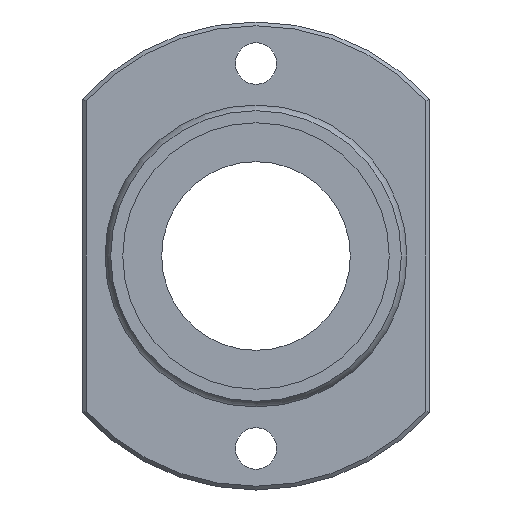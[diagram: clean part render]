
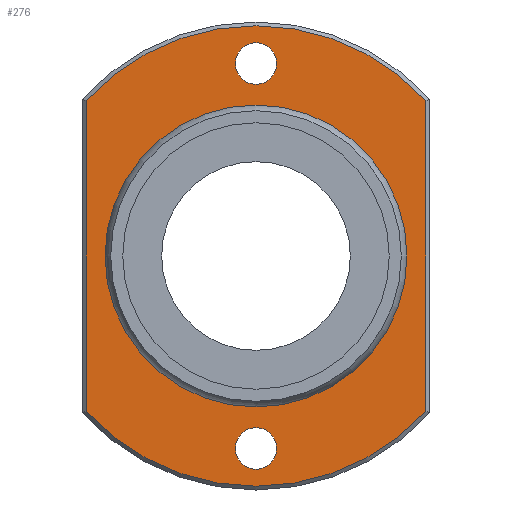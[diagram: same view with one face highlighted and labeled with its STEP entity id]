
A CAD part, left-side view. The second image highlights one B-rep face of the part: STEP entity #276.
In plain terms, the highlighted planar face has unit normal (-1, 0, 0).
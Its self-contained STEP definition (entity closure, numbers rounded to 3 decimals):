
#59=CARTESIAN_POINT('',(8.,22.5,-20.591));
#60=VERTEX_POINT('',#59);
#68=CARTESIAN_POINT('',(8.,22.5,20.591));
#69=VERTEX_POINT('',#68);
#70=CARTESIAN_POINT('',(8.,22.5,-20.591));
#71=DIRECTION('',(0.0,0.0,1.0));
#72=VECTOR('',#71,41.183);
#73=LINE('',#70,#72);
#74=EDGE_CURVE('',#60,#69,#73,.T.);
#101=CARTESIAN_POINT('',(8.,-22.5,20.591));
#102=VERTEX_POINT('',#101);
#103=CARTESIAN_POINT('',(8.,0.0,0.0));
#104=DIRECTION('',(1.0,0.0,0.0));
#105=DIRECTION('',(0.0,0.0,1.0));
#106=AXIS2_PLACEMENT_3D('',#103,#104,#105);
#107=CIRCLE('',#106,30.5);
#108=EDGE_CURVE('',#69,#102,#107,.T.);
#134=CARTESIAN_POINT('',(8.,-22.5,-20.591));
#135=VERTEX_POINT('',#134);
#136=CARTESIAN_POINT('',(8.,-22.5,20.591));
#137=DIRECTION('',(0.0,0.0,-1.0));
#138=VECTOR('',#137,41.183);
#139=LINE('',#136,#138);
#140=EDGE_CURVE('',#102,#135,#139,.T.);
#165=CARTESIAN_POINT('',(8.,0.0,0.0));
#166=DIRECTION('',(1.0,0.0,0.0));
#167=DIRECTION('',(0.0,0.0,-1.0));
#168=AXIS2_PLACEMENT_3D('',#165,#166,#167);
#169=CIRCLE('',#168,30.5);
#170=EDGE_CURVE('',#135,#60,#169,.T.);
#232=CARTESIAN_POINT('',(8.,0.0,25.282));
#233=DIRECTION('',(-1.0,0.0,0.0));
#234=DIRECTION('',(0.0,0.0,1.0));
#235=AXIS2_PLACEMENT_3D('',#232,#233,#234);
#236=PLANE('',#235);
#237=ORIENTED_EDGE('',*,*,#74,.F.);
#238=ORIENTED_EDGE('',*,*,#170,.F.);
#239=ORIENTED_EDGE('',*,*,#140,.F.);
#240=ORIENTED_EDGE('',*,*,#108,.F.);
#241=EDGE_LOOP('',(#237,#238,#239,#240));
#242=FACE_OUTER_BOUND('',#241,.T.);
#243=CARTESIAN_POINT('',(8.,0.0,19.564));
#244=VERTEX_POINT('',#243);
#245=CARTESIAN_POINT('',(8.,0.0,0.0));
#246=DIRECTION('',(-1.0,0.0,0.0));
#247=DIRECTION('',(0.0,0.0,1.0));
#248=AXIS2_PLACEMENT_3D('',#245,#246,#247);
#249=CIRCLE('',#248,19.564);
#250=EDGE_CURVE('',#244,#244,#249,.T.);
#251=ORIENTED_EDGE('',*,*,#250,.F.);
#252=EDGE_LOOP('',(#251));
#253=FACE_BOUND('',#252,.T.);
#254=CARTESIAN_POINT('',(8.,-2.75,-25.5));
#255=VERTEX_POINT('',#254);
#256=CARTESIAN_POINT('',(8.,0.,-25.5));
#257=DIRECTION('',(1.0,0.0,0.0));
#258=DIRECTION('',(0.0,1.0,0.0));
#259=AXIS2_PLACEMENT_3D('',#256,#257,#258);
#260=CIRCLE('',#259,2.75);
#261=EDGE_CURVE('',#255,#255,#260,.T.);
#262=ORIENTED_EDGE('',*,*,#261,.T.);
#263=EDGE_LOOP('',(#262));
#264=FACE_BOUND('',#263,.T.);
#265=CARTESIAN_POINT('',(8.,-2.75,25.5));
#266=VERTEX_POINT('',#265);
#267=CARTESIAN_POINT('',(8.,0.,25.5));
#268=DIRECTION('',(1.0,0.0,0.0));
#269=DIRECTION('',(0.0,1.0,0.0));
#270=AXIS2_PLACEMENT_3D('',#267,#268,#269);
#271=CIRCLE('',#270,2.75);
#272=EDGE_CURVE('',#266,#266,#271,.T.);
#273=ORIENTED_EDGE('',*,*,#272,.T.);
#274=EDGE_LOOP('',(#273));
#275=FACE_BOUND('',#274,.T.);
#276=ADVANCED_FACE('',(#242,#253,#264,#275),#236,.T.);
